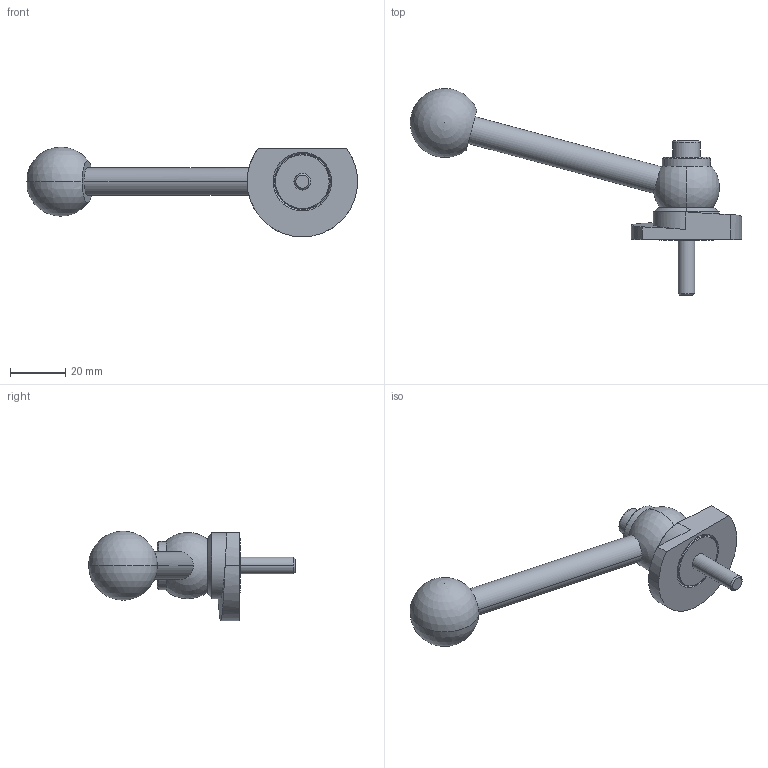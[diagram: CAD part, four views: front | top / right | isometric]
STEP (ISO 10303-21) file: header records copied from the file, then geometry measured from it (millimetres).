
FILE_DESCRIPTION (( 'STEP AP214' ), '1' );
FILE_NAME ('918.1-40-KVS-L-20.step', '2024-05-15T13:00:01', ( '' ), ( '' ), 'SwSTEP 2.0', 'SolidWorks 2022', '' );
FILE_SCHEMA (( 'AUTOMOTIVE_DESIGN' ));
Length unit declared in the file: millimetre
Products named in the file (1): 918.1-40-KVS-L-20
Bounding box: 119.95 x 74.99 x 32.5 mm (x, y, z)
Volume: 30315.8 mm3; surface area: 11213 mm2
Topology: 1 solids, 1 shells, 62 faces, 141 edges, 89 vertices
Faces by surface type: plane 20, cylinder 19, cone 14, sphere 4, bspline 3, torus 2
Entity records: 2003 total; most frequent: CARTESIAN_POINT 614, DIRECTION 304, ORIENTED_EDGE 262, EDGE_CURVE 131, AXIS2_PLACEMENT_3D 125, VERTEX_POINT 83, EDGE_LOOP 74, CIRCLE 65
